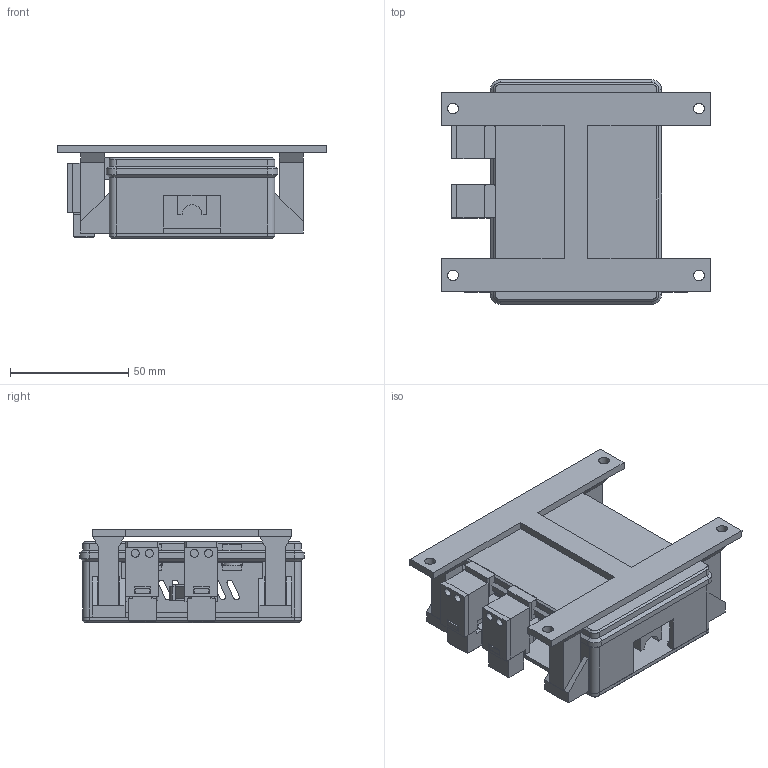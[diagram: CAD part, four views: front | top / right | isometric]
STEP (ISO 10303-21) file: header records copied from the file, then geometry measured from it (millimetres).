
FILE_DESCRIPTION(('SolidCraft model'),'2;1');
FILE_NAME('wall-low-native.step','',(''),(''),'SolidCraft','SolidCraft','');
FILE_SCHEMA(('AP242_MANAGED_MODEL_BASED_3D_ENGINEERING_MIM_LF { 1 0 10303 442 1 1 4 }'));
Length unit declared in the file: millimetre
Products named in the file (1): wall-low-native
Bounding box: 114.1 x 95 x 39.6 mm (x, y, z)
Volume: 94838.2 mm3; surface area: 78699.5 mm2
Topology: 26 solids, 26 shells, 690 faces, 1831 edges, 1234 vertices
Faces by surface type: plane 546, cylinder 124, cone 16, bspline 4
Full cylindrical faces by diameter (mm): 3.4 x22, 4 x19, 4.5 x4
Entity records: 17520 total; most frequent: CARTESIAN_POINT 3776, ORIENTED_EDGE 3662, EDGE_CURVE 1831, LINE 1433, VERTEX_POINT 1234, DIRECTION 950, VECTOR 869, EDGE_LOOP 829
